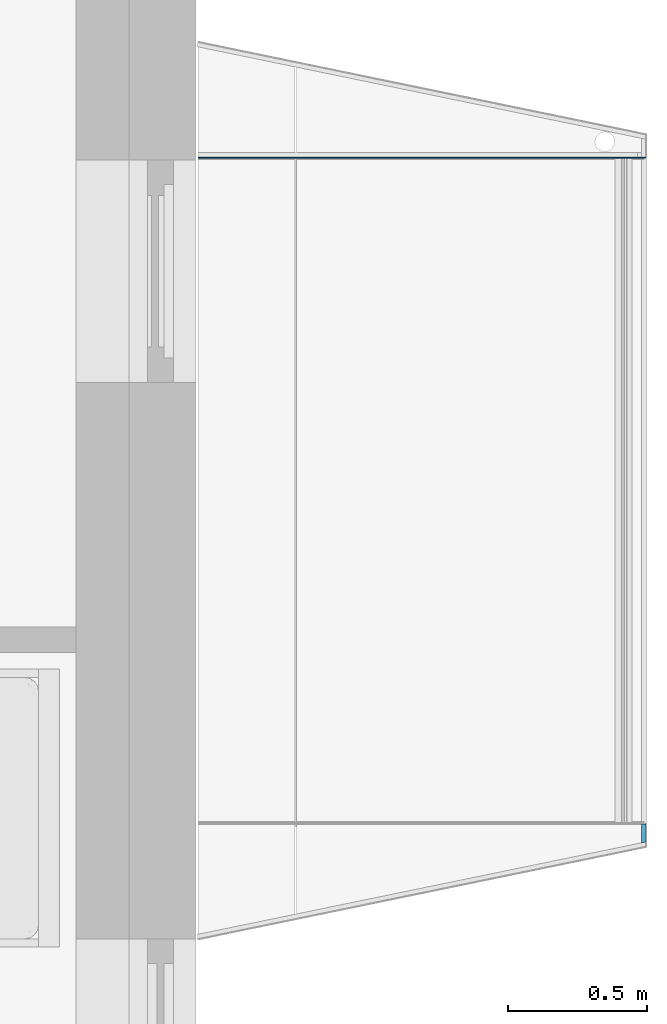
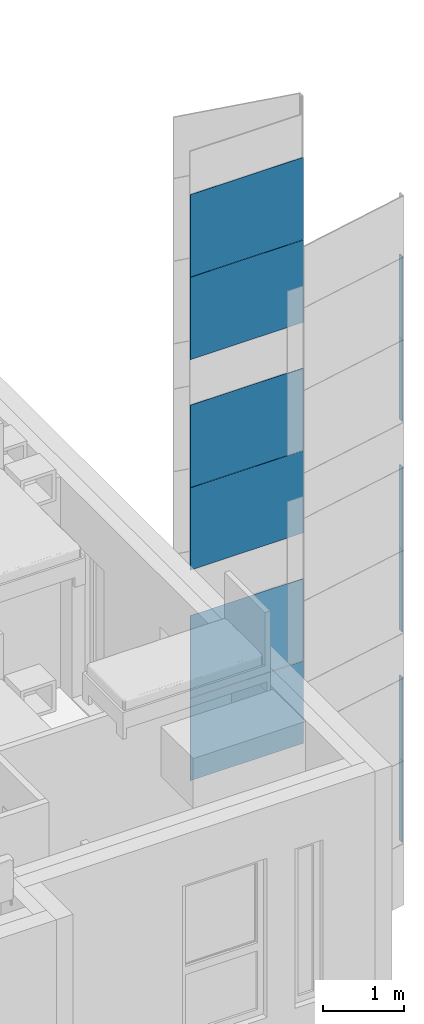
# One storey, part 13 of 125: 12 building element parts, 2 elements without a shape of their own.
"""IFC2X3 building model written with IfcOpenShell, lengths in millimetres."""

from ifc_helpers import new_model, entity, si_unit, converted_unit, direction, frame, frame_2d, origin, place, context, subcontext, project, spatial, polyline, rectangle, outline, extrude, material, type_object, element, aggregate, save


model = new_model("IFC2X3")

# Units and contexts
model_context = context("Model", 3, precision=0.01, world=origin(), true_north=direction((6.123233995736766e-17, 1.0)))
plan_context = context("Plan", 3, precision=0.01, world=origin(), true_north=direction((6.123233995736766e-17, 1.0)))
body_context = subcontext(model_context, "Body", "Model", "MODEL_VIEW")
ifc_project = project(units=[si_unit("LENGTHUNIT", "METRE", prefix="MILLI"), converted_unit("PLANEANGLEUNIT", "DEGREE", entity("IfcPlaneAngleMeasure", 0.017453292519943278), si_unit("PLANEANGLEUNIT", "RADIAN"), dimensions=[0, 0, 0, 0, 0, 0, 0]), si_unit("AREAUNIT", "SQUARE_METRE")], contexts=[model_context, plan_context])

# Site, building, storey
site_placement = place(None, origin())
site = spatial("IfcSite", under=ifc_project, at=site_placement, Name="Default", CompositionType="ELEMENT")
building_placement = place(site_placement, origin())
building = spatial("IfcBuilding", under=site, at=building_placement, CompositionType="ELEMENT")
storey_placement = place(building_placement, frame((0.0, 0.0, 3125.0)))
storey = spatial("IfcBuildingStorey", under=building, at=storey_placement, Name="2K", CompositionType="ELEMENT", Elevation=3125.0)

# Wall, building element parts
wall_type = type_object("IfcWallType", Name="Basic Wall:VS-komposiit", PredefinedType="STANDARD")
wall_1_placement = place(storey_placement, frame((18932.0, 5366.353411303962, -1010.0), z_axis=(0.0, 0.0, 1.0), x_axis=(-1.0, 0.0, 0.0)))
wall_1 = element("IfcWall", 1, at=wall_1_placement, inside=storey, type_object=wall_type, Name="Basic Wall:VS-komposiit", ObjectType="Basic Wall:VS-komposiit")
ifc_material_1 = material(Name="_K. Välisviimistlus. Alumiinium-komposiitplaat")
building_element_part_1_placement = place(wall_1_placement, origin())
building_element_part_1 = element("IfcBuildingElementPart", 2, at=building_element_part_1_placement, material=ifc_material_1, Name="Part", context=body_context, shape_type="SweptSolid", body=[
    extrude(rectangle(XDim=4.000000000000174, YDim=1610.0, at=frame_2d((-5.415667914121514e-13, 2.2168933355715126e-12), x_axis=(1.0, 0.0))), frame((789.0, 8.0, 7267.4999999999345), z_axis=(0.0, 0.0, 1.0), x_axis=(0.0, 1.0, 0.0)), (0.0, 0.0, 1.0), 1240.000000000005),
])
building_element_part_2_placement = place(wall_1_placement, origin())
building_element_part_2 = element("IfcBuildingElementPart", 3, at=building_element_part_2_placement, material=ifc_material_1, Name="Part", context=body_context, shape_type="SweptSolid", body=[
    extrude(rectangle(XDim=4.000000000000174, YDim=1610.0, at=frame_2d((-5.415667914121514e-13, 2.2168933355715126e-12), x_axis=(1.0, 0.0))), frame((789.0, 8.0, 8512.499999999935), z_axis=(0.0, 0.0, 1.0), x_axis=(0.0, 1.0, 0.0)), (0.0, 0.0, 1.0), 1240.0000000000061),
])
building_element_part_3_placement = place(wall_1_placement, origin())
building_element_part_3 = element("IfcBuildingElementPart", 4, at=building_element_part_3_placement, material=ifc_material_1, Name="Part", context=body_context, shape_type="SweptSolid", body=[
    extrude(rectangle(XDim=4.000000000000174, YDim=1610.0, at=frame_2d((-5.415667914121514e-13, 1.1368683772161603e-12), x_axis=(1.0, 0.0))), frame((789.0, 8.0, 5342.499999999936), z_axis=(0.0, 0.0, 1.0), x_axis=(0.0, 1.0, 0.0)), (0.0, 0.0, 1.0), 1240.000000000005),
])
building_element_part_4_placement = place(wall_1_placement, origin())
building_element_part_4 = element("IfcBuildingElementPart", 5, at=building_element_part_4_placement, material=ifc_material_1, Name="Part", context=body_context, shape_type="SweptSolid", body=[
    extrude(rectangle(XDim=4.000000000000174, YDim=1610.0, at=frame_2d((-5.415667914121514e-13, 1.1368683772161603e-12), x_axis=(1.0, 0.0))), frame((789.0, 8.0, 4097.4999999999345), z_axis=(0.0, 0.0, 1.0), x_axis=(0.0, 1.0, 0.0)), (0.0, 0.0, 1.0), 1240.0000000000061),
])
building_element_part_5_placement = place(wall_1_placement, origin())
building_element_part_5 = element("IfcBuildingElementPart", 6, at=building_element_part_5_placement, material=ifc_material_1, Name="Part", context=body_context, shape_type="SweptSolid", body=[
    extrude(rectangle(XDim=4.000000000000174, YDim=1610.0, at=frame_2d((-5.415667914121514e-13, 1.1368683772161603e-12), x_axis=(1.0, 0.0))), frame((789.0, 8.0, 927.4999999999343), z_axis=(0.0, 0.0, 1.0), x_axis=(0.0, 1.0, 0.0)), (0.0, 0.0, 1.0), 1240.0000000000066),
])
building_element_part_6_placement = place(wall_1_placement, origin())
building_element_part_6 = element("IfcBuildingElementPart", 7, at=building_element_part_6_placement, material=ifc_material_1, Name="Part", context=body_context, shape_type="SweptSolid", body=[
    extrude(rectangle(XDim=4.000000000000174, YDim=1610.0, at=frame_2d((-5.415667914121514e-13, 1.1368683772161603e-12), x_axis=(1.0, 0.0))), frame((789.0, 8.0, 2172.499999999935), z_axis=(0.0, 0.0, 1.0), x_axis=(0.0, 1.0, 0.0)), (0.0, 0.0, 1.0), 1240.0000000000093),
])
aggregate(wall_1, [building_element_part_1, building_element_part_2, building_element_part_3, building_element_part_4, building_element_part_5, building_element_part_6])

wall_2_placement = place(storey_placement, frame((18942.0, 2895.2108323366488, -1010.0), z_axis=(0.0, 0.0, 1.0), x_axis=(0.0, 1.0, 0.0)))
wall_2 = element("IfcWall", 8, at=wall_2_placement, inside=storey, type_object=wall_type, Name="Basic Wall:VS-komposiit", ObjectType="Basic Wall:VS-komposiit")
ifc_material_2 = material(Name="_K. Õhk. Roov. Fassaadikatte alusroov. Horisontaalne. 25 mm")
building_element_part_7_placement = place(wall_2_placement, origin())
building_element_part_7 = element("IfcBuildingElementPart", 9, at=building_element_part_7_placement, material=ifc_material_2, Name="Part", context=body_context, shape_type="SweptSolid", body=[
    extrude(outline(polyline([(-33.06294461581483, -8.0), (34.7128112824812, -8.0), (31.41307794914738, 8.0), (-33.06294461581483, 8.0), (-33.06294461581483, -8.0)])), frame((34.7128112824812, 2.0, 927.4999999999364), z_axis=(0.0, 0.0, 1.0), x_axis=(-1.0, 0.0, 0.0)), (0.0, 0.0, 1.0), 1240.0000000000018),
])
building_element_part_8_placement = place(wall_2_placement, origin())
building_element_part_8 = element("IfcBuildingElementPart", 10, at=building_element_part_8_placement, material=ifc_material_2, Name="Part", context=body_context, shape_type="SweptSolid", body=[
    extrude(outline(polyline([(-33.06294461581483, -8.0), (34.7128112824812, -8.0), (31.41307794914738, 8.0), (-33.06294461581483, 8.0), (-33.06294461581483, -8.0)])), frame((34.7128112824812, 2.0, 2172.499999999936), z_axis=(0.0, 0.0, 1.0), x_axis=(-1.0, 0.0, 0.0)), (0.0, 0.0, 1.0), 1240.000000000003),
])
building_element_part_9_placement = place(wall_2_placement, origin())
building_element_part_9 = element("IfcBuildingElementPart", 11, at=building_element_part_9_placement, material=ifc_material_2, Name="Part", context=body_context, shape_type="SweptSolid", body=[
    extrude(outline(polyline([(-33.06294461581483, -8.0), (34.7128112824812, -8.0), (31.41307794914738, 8.0), (-33.06294461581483, 8.0), (-33.06294461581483, -8.0)])), frame((34.7128112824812, 2.0, 4097.499999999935), z_axis=(0.0, 0.0, 1.0), x_axis=(-1.0, 0.0, 0.0)), (0.0, 0.0, 1.0), 1240.0000000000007),
])
building_element_part_10_placement = place(wall_2_placement, origin())
building_element_part_10 = element("IfcBuildingElementPart", 12, at=building_element_part_10_placement, material=ifc_material_2, Name="Part", context=body_context, shape_type="SweptSolid", body=[
    extrude(outline(polyline([(-33.06294461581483, -8.0), (34.7128112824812, -8.0), (31.41307794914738, 8.0), (-33.06294461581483, 8.0), (-33.06294461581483, -8.0)])), frame((34.7128112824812, 2.0, 8512.49999999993), z_axis=(0.0, 0.0, 1.0), x_axis=(-1.0, 0.0, 0.0)), (0.0, 0.0, 1.0), 1240.000000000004),
])
building_element_part_11_placement = place(wall_2_placement, origin())
building_element_part_11 = element("IfcBuildingElementPart", 13, at=building_element_part_11_placement, material=ifc_material_2, Name="Part", context=body_context, shape_type="SweptSolid", body=[
    extrude(outline(polyline([(-33.06294461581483, -8.0), (34.7128112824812, -8.0), (31.41307794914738, 8.0), (-33.06294461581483, 8.0), (-33.06294461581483, -8.0)])), frame((34.7128112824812, 2.0, 7267.499999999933), z_axis=(0.0, 0.0, 1.0), x_axis=(-1.0, 0.0, 0.0)), (0.0, 0.0, 1.0), 1240.0000000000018),
])
building_element_part_12_placement = place(wall_2_placement, origin())
building_element_part_12 = element("IfcBuildingElementPart", 14, at=building_element_part_12_placement, material=ifc_material_2, Name="Part", context=body_context, shape_type="SweptSolid", body=[
    extrude(outline(polyline([(-33.06294461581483, -8.0), (34.7128112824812, -8.0), (31.413077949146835, 8.0), (-33.06294461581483, 8.0), (-33.06294461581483, -8.0)])), frame((34.7128112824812, 2.0, 5342.499999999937), z_axis=(0.0, 0.0, 1.0), x_axis=(-1.0, 0.0, 0.0)), (0.0, 0.0, 1.0), 1239.9999999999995),
])
aggregate(wall_2, [building_element_part_7, building_element_part_8, building_element_part_9, building_element_part_10, building_element_part_11, building_element_part_12])

save(model, "model.ifc")
